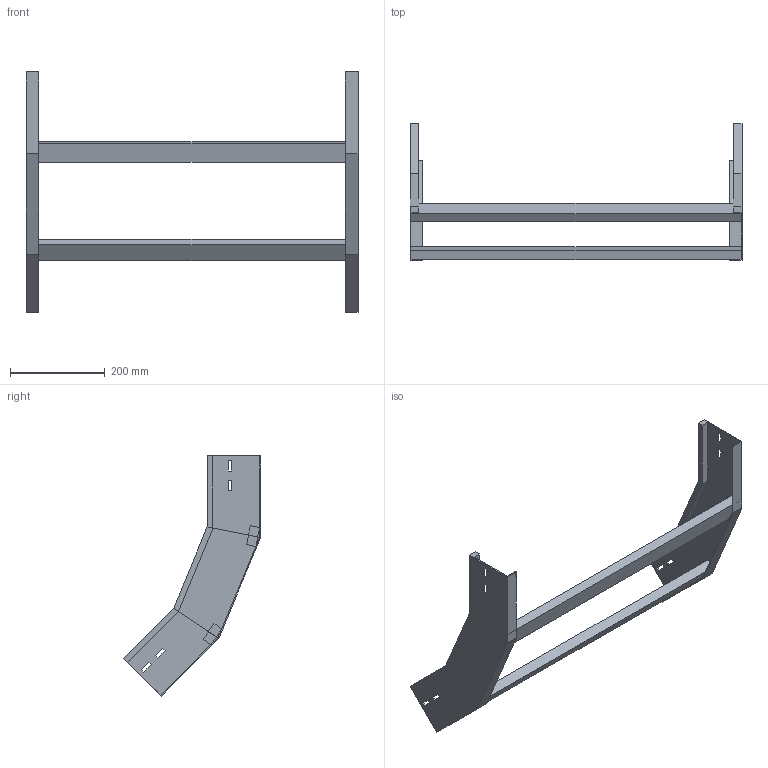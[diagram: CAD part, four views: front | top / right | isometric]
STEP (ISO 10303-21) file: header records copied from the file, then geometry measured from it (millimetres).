
FILE_DESCRIPTION (( 'STEP AP214' ), '1' );
FILE_NAME ('A2X31B3J700XX.step', '2025-03-20T10:06:38', ( '' ), ( '' ), 'SwSTEP 2.0', 'SolidWorks 2023', '' );
FILE_SCHEMA (( 'AUTOMOTIVE_DESIGN' ));
Length unit declared in the file: millimetre
Products named in the file (3): LONGH.SALITA_45°_H112.5_R300; A2X31B3J700XX; TRAVERSINO_700
Assembly tree (4 placements, depth 2):
  A2X31B3J700XX
    LONGH.SALITA_45°_H112.5_R300  x2
    TRAVERSINO_700  x2
Bounding box: 700 x 289.26 x 506.29 mm (x, y, z)
Volume: 1608600.5 mm3; surface area: 503155.8 mm2
Topology: 4 solids, 4 shells, 96 faces, 232 edges, 144 vertices
Faces by surface type: plane 96
Entity records: 1472 total; most frequent: CARTESIAN_POINT 243, ORIENTED_EDGE 232, DIRECTION 226, VECTOR 116, EDGE_CURVE 116, LINE 116, VERTEX_POINT 72, EDGE_LOOP 56
